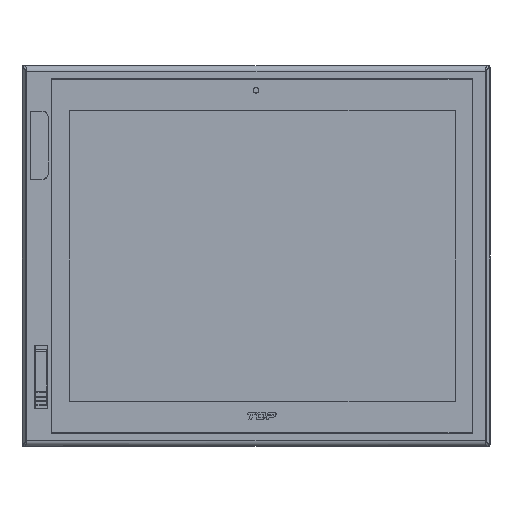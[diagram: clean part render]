
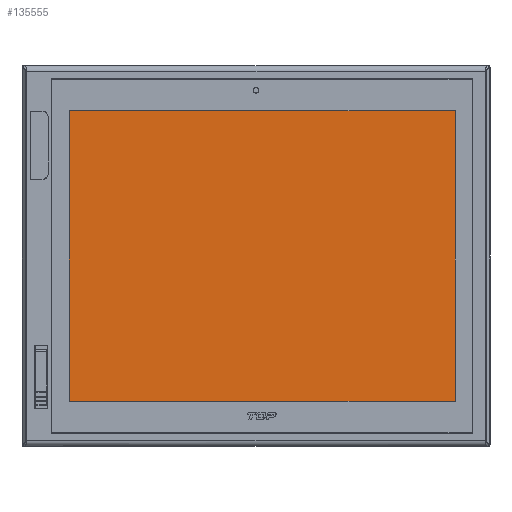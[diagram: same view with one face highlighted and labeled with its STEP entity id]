
A CAD part, top view. The second image highlights one B-rep face of the part: STEP entity #135555.
In plain terms, the highlighted planar face has unit normal (0, 0, 1).
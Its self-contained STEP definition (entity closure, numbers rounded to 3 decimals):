
#30928=DIRECTION('',(-1.,0.,0.));
#30929=VECTOR('',#30928,305.);
#30930=CARTESIAN_POINT('',(157.5,115.,3.7));
#30931=LINE('',#30930,#30929);
#30932=DIRECTION('',(0.,1.,0.));
#30933=VECTOR('',#30932,230.);
#30934=CARTESIAN_POINT('',(157.5,-115.,3.7));
#30935=LINE('',#30934,#30933);
#30936=DIRECTION('',(1.,0.,0.));
#30937=VECTOR('',#30936,305.);
#30938=CARTESIAN_POINT('',(-147.5,-115.,3.7));
#30939=LINE('',#30938,#30937);
#30940=DIRECTION('',(0.,-1.,0.));
#30941=VECTOR('',#30940,230.);
#30942=CARTESIAN_POINT('',(-147.5,115.,3.7));
#30943=LINE('',#30942,#30941);
#72915=CARTESIAN_POINT('',(157.5,115.,3.7));
#72916=CARTESIAN_POINT('',(-147.5,115.,3.7));
#72917=VERTEX_POINT('',#72915);
#72918=VERTEX_POINT('',#72916);
#72919=CARTESIAN_POINT('',(-147.5,-115.,3.7));
#72920=VERTEX_POINT('',#72919);
#72921=CARTESIAN_POINT('',(157.5,-115.,3.7));
#72922=VERTEX_POINT('',#72921);
#135544=CARTESIAN_POINT('',(0.,0.,3.7));
#135545=DIRECTION('',(0.,0.,1.));
#135546=DIRECTION('',(1.,0.,0.));
#135547=AXIS2_PLACEMENT_3D('',#135544,#135545,#135546);
#135548=PLANE('',#135547);
#135549=ORIENTED_EDGE('',*,*,#135484,.F.);
#135550=ORIENTED_EDGE('',*,*,#135499,.F.);
#135551=ORIENTED_EDGE('',*,*,#135513,.F.);
#135552=ORIENTED_EDGE('',*,*,#135526,.F.);
#135553=EDGE_LOOP('',(#135549,#135550,#135551,#135552));
#135554=FACE_OUTER_BOUND('',#135553,.F.);
#135555=ADVANCED_FACE('',(#135554),#135548,.T.);
#135484=EDGE_CURVE('',#72917,#72918,#30931,.T.);
#135499=EDGE_CURVE('',#72922,#72917,#30935,.T.);
#135513=EDGE_CURVE('',#72920,#72922,#30939,.T.);
#135526=EDGE_CURVE('',#72918,#72920,#30943,.T.);
